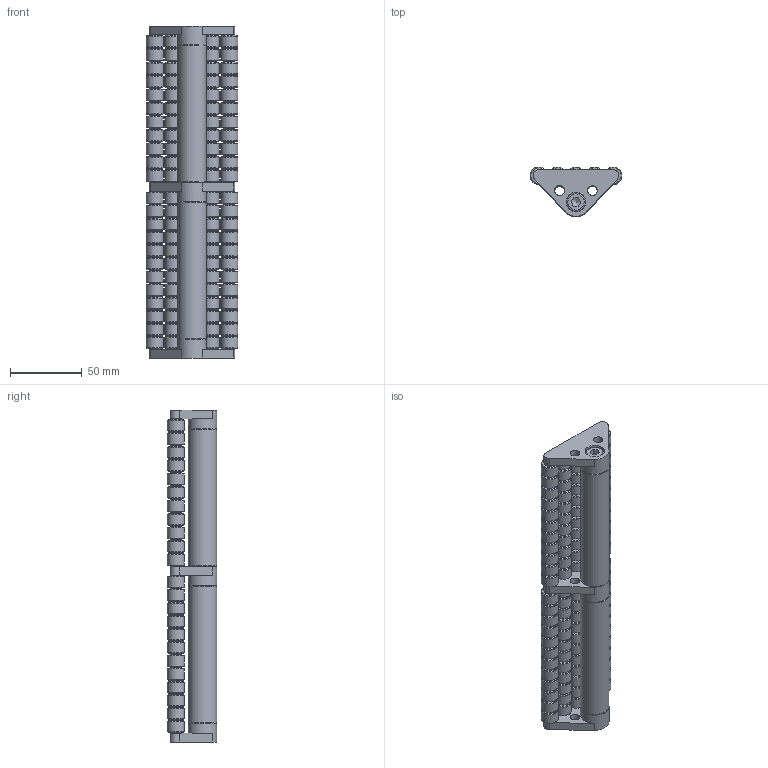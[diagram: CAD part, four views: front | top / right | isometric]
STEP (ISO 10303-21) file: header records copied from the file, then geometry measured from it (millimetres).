
FILE_DESCRIPTION(/* description */ ('ROLLER TRANSFER STD S560'),/* implementation_level */ '2;1');
FILE_NAME(/* name */ '500-7030.stp',/* time_stamp */ '2022-09-22T10:30:28+02:00',/* author */ ('MD'),/* organization */ ('CARRYLINE'),/* preprocessor_version */ 'ST-DEVELOPER v19.2',/* originating_system */ 'Autodesk Inventor 2023',/* authorisation */ '');
FILE_SCHEMA (('AUTOMOTIVE_DESIGN { 1 0 10303 214 3 1 1 }'));
Length unit declared in the file: millimetre
Products named in the file (8): 500-7030; 15960; 13053_1; 5510-820; 13041_6; 13053_4; 15959; 13053_3
Assembly tree (128 placements, depth 2):
  500-7030
    15960  x2
    13053_1  x5
    13053_4  x2
    5510-820  x2
    15959  x115
    13041_6
    13053_3
Bounding box: 64 x 34.5 x 232 mm (x, y, z)
Volume: 196118.4 mm3; surface area: 118379.1 mm2
Topology: 128 solids, 128 shells, 1295 faces, 2129 edges, 1335 vertices
Faces by surface type: plane 525, cylinder 509, cone 257, torus 4
Full cylindrical faces by diameter (mm): 4 x135, 6.647 x7, 6.912 x3, 7.8 x230, 8 x6, 12 x115, 13 x2, 20 x5
Entity records: 3635 total; most frequent: DIRECTION 701, CARTESIAN_POINT 525, ORIENTED_EDGE 348, AXIS2_PLACEMENT_3D 311, EDGE_CURVE 174, PRODUCT_DEFINITION_SHAPE 136, ITEM_DEFINED_TRANSFORMATION 128, CONTEXT_DEPENDENT_SHAPE_REPRESENTATION 128
